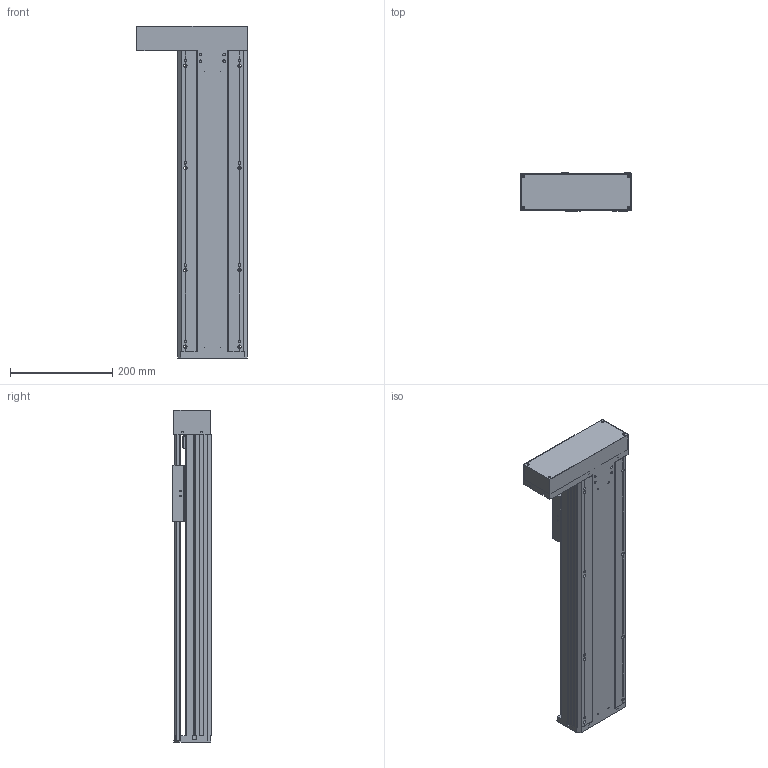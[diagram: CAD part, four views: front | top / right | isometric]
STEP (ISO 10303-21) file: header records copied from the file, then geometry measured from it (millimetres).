
FILE_DESCRIPTION(/* description */ (''),/* implementation_level */ '2;1');
FILE_NAME(/* name */ 'TKA136-FL-400_asm1.stp',/* time_stamp */ '2016-05-07T11:16:03+08:00',/* author */ (''),/* organization */ (''),/* preprocessor_version */ 'ST-DEVELOPER v15',/* originating_system */ 'SIEMENS PLM Software NX 8.5',/* authorisation */ '');
FILE_SCHEMA (('AUTOMOTIVE_DESIGN { 1 0 10303 214 3 1 1 1 }'));
Length unit declared in the file: millimetre
Products named in the file (3): 100-02; 100-01; TKA136-FL-400_asm1
Assembly tree (2 placements, depth 2):
  TKA136-FL-400_asm1
    100-01
    100-02
Bounding box: 216 x 75 x 650 mm (x, y, z)
Volume: 2134013.8 mm3; surface area: 846023.1 mm2
Topology: 2 solids, 12 shells, 870 faces, 2426 edges, 1583 vertices
Faces by surface type: plane 419, cylinder 400, cone 51
Full cylindrical faces by diameter (mm): 2.5 x14, 3 x2, 3.3 x13, 4 x4, 4.2 x6, 4.5 x24, 5 x16, 5.5 x26, 6.6 x12, 8 x20, 10 x9, 10.5 x8, 11 x4, 11.6 x1, 12 x9, 15 x3, 16 x5, 17 x1, 24 x5, 26 x1, 28 x1, 46 x1, 50 x1
Entity records: 28800 total; most frequent: CARTESIAN_POINT 7476, DIRECTION 4428, ORIENTED_EDGE 4118, EDGE_CURVE 2059, AXIS2_PLACEMENT_3D 1671, VERTEX_POINT 1472, EDGE_LOOP 1294, LINE 1086
